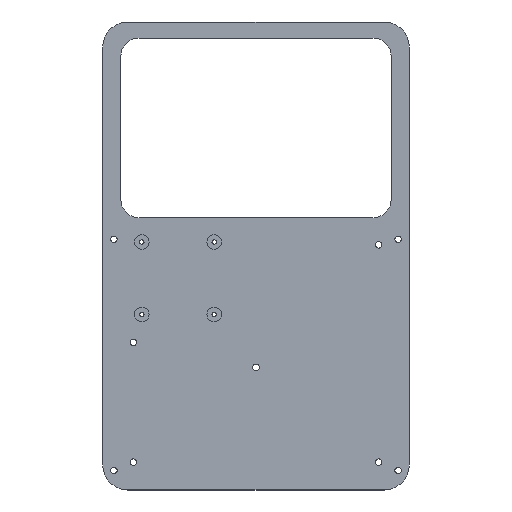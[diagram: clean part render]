
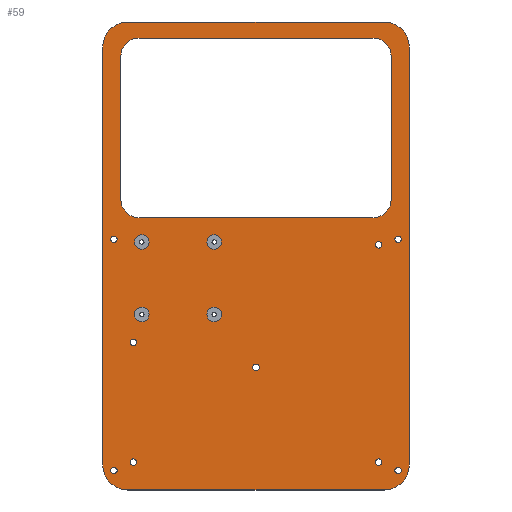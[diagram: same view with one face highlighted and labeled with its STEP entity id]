
A CAD part, top view. The second image highlights one B-rep face of the part: STEP entity #59.
In plain terms, the highlighted planar face has unit normal (0, 0, 1).
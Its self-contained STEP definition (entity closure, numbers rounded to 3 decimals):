
#21 = EDGE_CURVE('',#22,#24,#26,.T.);
#22 = VERTEX_POINT('',#23);
#23 = CARTESIAN_POINT('',(-55.,-75.,-25.6));
#24 = VERTEX_POINT('',#25);
#25 = CARTESIAN_POINT('',(-46.,-84.,-25.6));
#26 = CIRCLE('',#27,9.);
#27 = AXIS2_PLACEMENT_3D('',#28,#29,#30);
#28 = CARTESIAN_POINT('',(-46.,-75.,-25.6));
#29 = DIRECTION('',(0.,0.,1.));
#30 = DIRECTION('',(1.,0.,0.));
#59 = ADVANCED_FACE('',(#60,#120,#131,#142,#153,#164,#175,#186,#197,#208
    ,#219,#230,#241,#252,#263),#333,.T.);
#60 = FACE_BOUND('',#61,.T.);
#61 = EDGE_LOOP('',(#62,#63,#71,#80,#88,#97,#105,#114));
#62 = ORIENTED_EDGE('',*,*,#21,.T.);
#63 = ORIENTED_EDGE('',*,*,#64,.T.);
#64 = EDGE_CURVE('',#24,#65,#67,.T.);
#65 = VERTEX_POINT('',#66);
#66 = CARTESIAN_POINT('',(46.,-84.,-25.6));
#67 = LINE('',#68,#69);
#68 = CARTESIAN_POINT('',(-46.,-84.,-25.6));
#69 = VECTOR('',#70,1.);
#70 = DIRECTION('',(1.,0.,0.));
#71 = ORIENTED_EDGE('',*,*,#72,.T.);
#72 = EDGE_CURVE('',#65,#73,#75,.T.);
#73 = VERTEX_POINT('',#74);
#74 = CARTESIAN_POINT('',(55.,-75.,-25.6));
#75 = CIRCLE('',#76,9.);
#76 = AXIS2_PLACEMENT_3D('',#77,#78,#79);
#77 = CARTESIAN_POINT('',(46.,-75.,-25.6));
#78 = DIRECTION('',(0.,0.,1.));
#79 = DIRECTION('',(1.,0.,0.));
#80 = ORIENTED_EDGE('',*,*,#81,.T.);
#81 = EDGE_CURVE('',#73,#82,#84,.T.);
#82 = VERTEX_POINT('',#83);
#83 = CARTESIAN_POINT('',(55.,75.,-25.6));
#84 = LINE('',#85,#86);
#85 = CARTESIAN_POINT('',(55.,-75.,-25.6));
#86 = VECTOR('',#87,1.);
#87 = DIRECTION('',(0.,1.,0.));
#88 = ORIENTED_EDGE('',*,*,#89,.T.);
#89 = EDGE_CURVE('',#82,#90,#92,.T.);
#90 = VERTEX_POINT('',#91);
#91 = CARTESIAN_POINT('',(46.,84.,-25.6));
#92 = CIRCLE('',#93,9.);
#93 = AXIS2_PLACEMENT_3D('',#94,#95,#96);
#94 = CARTESIAN_POINT('',(46.,75.,-25.6));
#95 = DIRECTION('',(0.,0.,1.));
#96 = DIRECTION('',(1.,0.,0.));
#97 = ORIENTED_EDGE('',*,*,#98,.F.);
#98 = EDGE_CURVE('',#99,#90,#101,.T.);
#99 = VERTEX_POINT('',#100);
#100 = CARTESIAN_POINT('',(-46.,84.,-25.6));
#101 = LINE('',#102,#103);
#102 = CARTESIAN_POINT('',(-46.,84.,-25.6));
#103 = VECTOR('',#104,1.);
#104 = DIRECTION('',(1.,0.,0.));
#105 = ORIENTED_EDGE('',*,*,#106,.T.);
#106 = EDGE_CURVE('',#99,#107,#109,.T.);
#107 = VERTEX_POINT('',#108);
#108 = CARTESIAN_POINT('',(-55.,75.,-25.6));
#109 = CIRCLE('',#110,9.);
#110 = AXIS2_PLACEMENT_3D('',#111,#112,#113);
#111 = CARTESIAN_POINT('',(-46.,75.,-25.6));
#112 = DIRECTION('',(0.,0.,1.));
#113 = DIRECTION('',(1.,0.,0.));
#114 = ORIENTED_EDGE('',*,*,#115,.F.);
#115 = EDGE_CURVE('',#22,#107,#116,.T.);
#116 = LINE('',#117,#118);
#117 = CARTESIAN_POINT('',(-55.,-75.,-25.6));
#118 = VECTOR('',#119,1.);
#119 = DIRECTION('',(0.,1.,0.));
#120 = FACE_BOUND('',#121,.T.);
#121 = EDGE_LOOP('',(#122));
#122 = ORIENTED_EDGE('',*,*,#123,.F.);
#123 = EDGE_CURVE('',#124,#124,#126,.T.);
#124 = VERTEX_POINT('',#125);
#125 = CARTESIAN_POINT('',(-49.85,-77.,-25.6));
#126 = CIRCLE('',#127,1.15);
#127 = AXIS2_PLACEMENT_3D('',#128,#129,#130);
#128 = CARTESIAN_POINT('',(-51.,-77.,-25.6));
#129 = DIRECTION('',(0.,0.,1.));
#130 = DIRECTION('',(1.,0.,0.));
#131 = FACE_BOUND('',#132,.T.);
#132 = EDGE_LOOP('',(#133));
#133 = ORIENTED_EDGE('',*,*,#134,.F.);
#134 = EDGE_CURVE('',#135,#135,#137,.T.);
#135 = VERTEX_POINT('',#136);
#136 = CARTESIAN_POINT('',(-42.85,-74.,-25.6));
#137 = CIRCLE('',#138,1.15);
#138 = AXIS2_PLACEMENT_3D('',#139,#140,#141);
#139 = CARTESIAN_POINT('',(-44.,-74.,-25.6));
#140 = DIRECTION('',(0.,0.,1.));
#141 = DIRECTION('',(1.,0.,0.));
#142 = FACE_BOUND('',#143,.T.);
#143 = EDGE_LOOP('',(#144));
#144 = ORIENTED_EDGE('',*,*,#145,.F.);
#145 = EDGE_CURVE('',#146,#146,#148,.T.);
#146 = VERTEX_POINT('',#147);
#147 = CARTESIAN_POINT('',(-42.85,-31.,-25.6));
#148 = CIRCLE('',#149,1.15);
#149 = AXIS2_PLACEMENT_3D('',#150,#151,#152);
#150 = CARTESIAN_POINT('',(-44.,-31.,-25.6));
#151 = DIRECTION('',(0.,0.,1.));
#152 = DIRECTION('',(1.,0.,0.));
#153 = FACE_BOUND('',#154,.T.);
#154 = EDGE_LOOP('',(#155));
#155 = ORIENTED_EDGE('',*,*,#156,.F.);
#156 = EDGE_CURVE('',#157,#157,#159,.T.);
#157 = VERTEX_POINT('',#158);
#158 = CARTESIAN_POINT('',(-38.4,-21.,-25.6));
#159 = CIRCLE('',#160,2.6);
#160 = AXIS2_PLACEMENT_3D('',#161,#162,#163);
#161 = CARTESIAN_POINT('',(-41.,-21.,-25.6));
#162 = DIRECTION('',(0.,0.,1.));
#163 = DIRECTION('',(1.,0.,0.));
#164 = FACE_BOUND('',#165,.T.);
#165 = EDGE_LOOP('',(#166));
#166 = ORIENTED_EDGE('',*,*,#167,.F.);
#167 = EDGE_CURVE('',#168,#168,#170,.T.);
#168 = VERTEX_POINT('',#169);
#169 = CARTESIAN_POINT('',(-12.4,-21.,-25.6));
#170 = CIRCLE('',#171,2.6);
#171 = AXIS2_PLACEMENT_3D('',#172,#173,#174);
#172 = CARTESIAN_POINT('',(-15.,-21.,-25.6));
#173 = DIRECTION('',(0.,0.,1.));
#174 = DIRECTION('',(1.,0.,0.));
#175 = FACE_BOUND('',#176,.T.);
#176 = EDGE_LOOP('',(#177));
#177 = ORIENTED_EDGE('',*,*,#178,.F.);
#178 = EDGE_CURVE('',#179,#179,#181,.T.);
#179 = VERTEX_POINT('',#180);
#180 = CARTESIAN_POINT('',(1.15,-40.,-25.6));
#181 = CIRCLE('',#182,1.15);
#182 = AXIS2_PLACEMENT_3D('',#183,#184,#185);
#183 = CARTESIAN_POINT('',(0.,-40.,-25.6));
#184 = DIRECTION('',(0.,0.,1.));
#185 = DIRECTION('',(1.,0.,0.));
#186 = FACE_BOUND('',#187,.T.);
#187 = EDGE_LOOP('',(#188));
#188 = ORIENTED_EDGE('',*,*,#189,.F.);
#189 = EDGE_CURVE('',#190,#190,#192,.T.);
#190 = VERTEX_POINT('',#191);
#191 = CARTESIAN_POINT('',(45.15,-74.,-25.6));
#192 = CIRCLE('',#193,1.15);
#193 = AXIS2_PLACEMENT_3D('',#194,#195,#196);
#194 = CARTESIAN_POINT('',(44.,-74.,-25.6));
#195 = DIRECTION('',(0.,0.,1.));
#196 = DIRECTION('',(1.,0.,0.));
#197 = FACE_BOUND('',#198,.T.);
#198 = EDGE_LOOP('',(#199));
#199 = ORIENTED_EDGE('',*,*,#200,.F.);
#200 = EDGE_CURVE('',#201,#201,#203,.T.);
#201 = VERTEX_POINT('',#202);
#202 = CARTESIAN_POINT('',(52.15,-77.,-25.6));
#203 = CIRCLE('',#204,1.15);
#204 = AXIS2_PLACEMENT_3D('',#205,#206,#207);
#205 = CARTESIAN_POINT('',(51.,-77.,-25.6));
#206 = DIRECTION('',(0.,0.,1.));
#207 = DIRECTION('',(1.,0.,0.));
#208 = FACE_BOUND('',#209,.T.);
#209 = EDGE_LOOP('',(#210));
#210 = ORIENTED_EDGE('',*,*,#211,.F.);
#211 = EDGE_CURVE('',#212,#212,#214,.T.);
#212 = VERTEX_POINT('',#213);
#213 = CARTESIAN_POINT('',(-49.85,6.,-25.6));
#214 = CIRCLE('',#215,1.15);
#215 = AXIS2_PLACEMENT_3D('',#216,#217,#218);
#216 = CARTESIAN_POINT('',(-51.,6.,-25.6));
#217 = DIRECTION('',(0.,0.,1.));
#218 = DIRECTION('',(1.,0.,0.));
#219 = FACE_BOUND('',#220,.T.);
#220 = EDGE_LOOP('',(#221));
#221 = ORIENTED_EDGE('',*,*,#222,.F.);
#222 = EDGE_CURVE('',#223,#223,#225,.T.);
#223 = VERTEX_POINT('',#224);
#224 = CARTESIAN_POINT('',(-38.4,5.,-25.6));
#225 = CIRCLE('',#226,2.6);
#226 = AXIS2_PLACEMENT_3D('',#227,#228,#229);
#227 = CARTESIAN_POINT('',(-41.,5.,-25.6));
#228 = DIRECTION('',(0.,0.,1.));
#229 = DIRECTION('',(1.,0.,0.));
#230 = FACE_BOUND('',#231,.T.);
#231 = EDGE_LOOP('',(#232));
#232 = ORIENTED_EDGE('',*,*,#233,.F.);
#233 = EDGE_CURVE('',#234,#234,#236,.T.);
#234 = VERTEX_POINT('',#235);
#235 = CARTESIAN_POINT('',(-12.4,5.,-25.6));
#236 = CIRCLE('',#237,2.6);
#237 = AXIS2_PLACEMENT_3D('',#238,#239,#240);
#238 = CARTESIAN_POINT('',(-15.,5.,-25.6));
#239 = DIRECTION('',(0.,0.,1.));
#240 = DIRECTION('',(1.,0.,0.));
#241 = FACE_BOUND('',#242,.T.);
#242 = EDGE_LOOP('',(#243));
#243 = ORIENTED_EDGE('',*,*,#244,.F.);
#244 = EDGE_CURVE('',#245,#245,#247,.T.);
#245 = VERTEX_POINT('',#246);
#246 = CARTESIAN_POINT('',(45.15,4.,-25.6));
#247 = CIRCLE('',#248,1.15);
#248 = AXIS2_PLACEMENT_3D('',#249,#250,#251);
#249 = CARTESIAN_POINT('',(44.,4.,-25.6));
#250 = DIRECTION('',(0.,0.,1.));
#251 = DIRECTION('',(1.,0.,0.));
#252 = FACE_BOUND('',#253,.T.);
#253 = EDGE_LOOP('',(#254));
#254 = ORIENTED_EDGE('',*,*,#255,.F.);
#255 = EDGE_CURVE('',#256,#256,#258,.T.);
#256 = VERTEX_POINT('',#257);
#257 = CARTESIAN_POINT('',(52.15,6.,-25.6));
#258 = CIRCLE('',#259,1.15);
#259 = AXIS2_PLACEMENT_3D('',#260,#261,#262);
#260 = CARTESIAN_POINT('',(51.,6.,-25.6));
#261 = DIRECTION('',(0.,0.,1.));
#262 = DIRECTION('',(1.,0.,0.));
#263 = FACE_BOUND('',#264,.T.);
#264 = EDGE_LOOP('',(#265,#276,#284,#293,#301,#310,#318,#327));
#265 = ORIENTED_EDGE('',*,*,#266,.F.);
#266 = EDGE_CURVE('',#267,#269,#271,.T.);
#267 = VERTEX_POINT('',#268);
#268 = CARTESIAN_POINT('',(-48.5,20.25,-25.6));
#269 = VERTEX_POINT('',#270);
#270 = CARTESIAN_POINT('',(-42.,13.75,-25.6));
#271 = CIRCLE('',#272,6.5);
#272 = AXIS2_PLACEMENT_3D('',#273,#274,#275);
#273 = CARTESIAN_POINT('',(-42.,20.25,-25.6));
#274 = DIRECTION('',(0.,0.,1.));
#275 = DIRECTION('',(1.,0.,0.));
#276 = ORIENTED_EDGE('',*,*,#277,.T.);
#277 = EDGE_CURVE('',#267,#278,#280,.T.);
#278 = VERTEX_POINT('',#279);
#279 = CARTESIAN_POINT('',(-48.5,71.75,-25.6));
#280 = LINE('',#281,#282);
#281 = CARTESIAN_POINT('',(-48.5,10.125,-25.6));
#282 = VECTOR('',#283,1.);
#283 = DIRECTION('',(0.,1.,0.));
#284 = ORIENTED_EDGE('',*,*,#285,.F.);
#285 = EDGE_CURVE('',#286,#278,#288,.T.);
#286 = VERTEX_POINT('',#287);
#287 = CARTESIAN_POINT('',(-42.,78.25,-25.6));
#288 = CIRCLE('',#289,6.5);
#289 = AXIS2_PLACEMENT_3D('',#290,#291,#292);
#290 = CARTESIAN_POINT('',(-42.,71.75,-25.6));
#291 = DIRECTION('',(0.,0.,1.));
#292 = DIRECTION('',(1.,0.,0.));
#293 = ORIENTED_EDGE('',*,*,#294,.F.);
#294 = EDGE_CURVE('',#295,#286,#297,.T.);
#295 = VERTEX_POINT('',#296);
#296 = CARTESIAN_POINT('',(42.,78.25,-25.6));
#297 = LINE('',#298,#299);
#298 = CARTESIAN_POINT('',(-21.,78.25,-25.6));
#299 = VECTOR('',#300,1.);
#300 = DIRECTION('',(-1.,0.,0.));
#301 = ORIENTED_EDGE('',*,*,#302,.F.);
#302 = EDGE_CURVE('',#303,#295,#305,.T.);
#303 = VERTEX_POINT('',#304);
#304 = CARTESIAN_POINT('',(48.5,71.75,-25.6));
#305 = CIRCLE('',#306,6.5);
#306 = AXIS2_PLACEMENT_3D('',#307,#308,#309);
#307 = CARTESIAN_POINT('',(42.,71.75,-25.6));
#308 = DIRECTION('',(0.,0.,1.));
#309 = DIRECTION('',(1.,0.,0.));
#310 = ORIENTED_EDGE('',*,*,#311,.F.);
#311 = EDGE_CURVE('',#312,#303,#314,.T.);
#312 = VERTEX_POINT('',#313);
#313 = CARTESIAN_POINT('',(48.5,20.25,-25.6));
#314 = LINE('',#315,#316);
#315 = CARTESIAN_POINT('',(48.5,10.125,-25.6));
#316 = VECTOR('',#317,1.);
#317 = DIRECTION('',(0.,1.,0.));
#318 = ORIENTED_EDGE('',*,*,#319,.F.);
#319 = EDGE_CURVE('',#320,#312,#322,.T.);
#320 = VERTEX_POINT('',#321);
#321 = CARTESIAN_POINT('',(42.,13.75,-25.6));
#322 = CIRCLE('',#323,6.5);
#323 = AXIS2_PLACEMENT_3D('',#324,#325,#326);
#324 = CARTESIAN_POINT('',(42.,20.25,-25.6));
#325 = DIRECTION('',(0.,0.,1.));
#326 = DIRECTION('',(1.,0.,0.));
#327 = ORIENTED_EDGE('',*,*,#328,.T.);
#328 = EDGE_CURVE('',#320,#269,#329,.T.);
#329 = LINE('',#330,#331);
#330 = CARTESIAN_POINT('',(-21.,13.75,-25.6));
#331 = VECTOR('',#332,1.);
#332 = DIRECTION('',(-1.,0.,0.));
#333 = PLANE('',#334);
#334 = AXIS2_PLACEMENT_3D('',#335,#336,#337);
#335 = CARTESIAN_POINT('',(0.,0.,-25.6));
#336 = DIRECTION('',(0.,0.,1.));
#337 = DIRECTION('',(1.,0.,0.));
